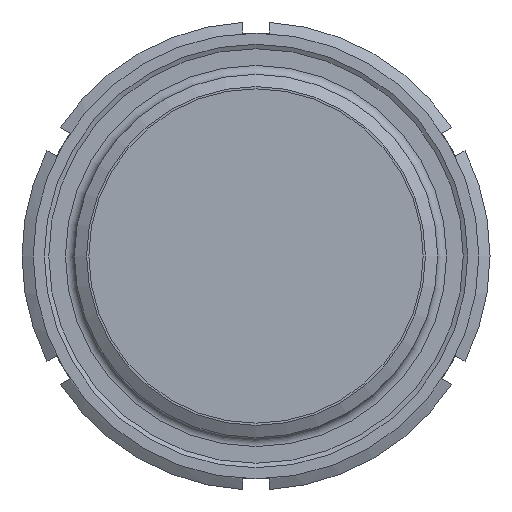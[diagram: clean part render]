
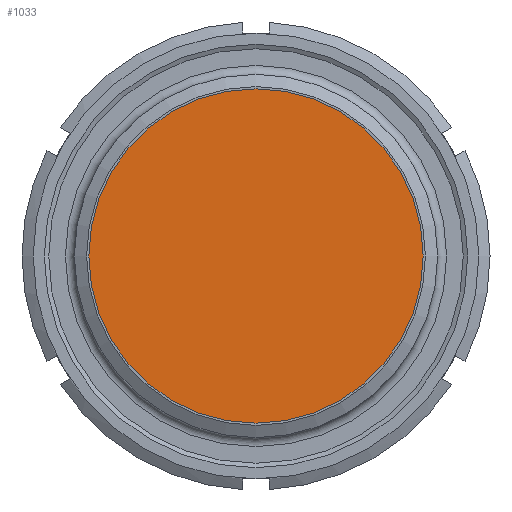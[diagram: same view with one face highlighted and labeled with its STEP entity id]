
A CAD part, front view. The second image highlights one B-rep face of the part: STEP entity #1033.
In plain terms, the highlighted planar face has unit normal (0, -1, 0).
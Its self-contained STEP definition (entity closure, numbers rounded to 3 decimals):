
#77=PLANE('',#1205);
#190=CIRCLE('',#1206,82.5);
#428=ORIENTED_EDGE('',*,*,#583,.T.);
#583=EDGE_CURVE('',#678,#678,#190,.F.);
#678=VERTEX_POINT('',#2043);
#810=EDGE_LOOP('',(#428));
#918=FACE_BOUND('',#810,.T.);
#1033=ADVANCED_FACE('',(#918),#77,.F.);
#1205=AXIS2_PLACEMENT_3D('',#2041,#1458,#1459);
#1206=AXIS2_PLACEMENT_3D('',#2042,#1460,#1461);
#1458=DIRECTION('',(0.,1.,0.));
#1459=DIRECTION('',(0.,0.,1.));
#1460=DIRECTION('',(0.,1.,0.));
#1461=DIRECTION('',(0.,0.,1.));
#2041=CARTESIAN_POINT('',(0.,0.,0.));
#2042=CARTESIAN_POINT('',(0.,0.,0.));
#2043=CARTESIAN_POINT('',(0.,0.,82.5));
